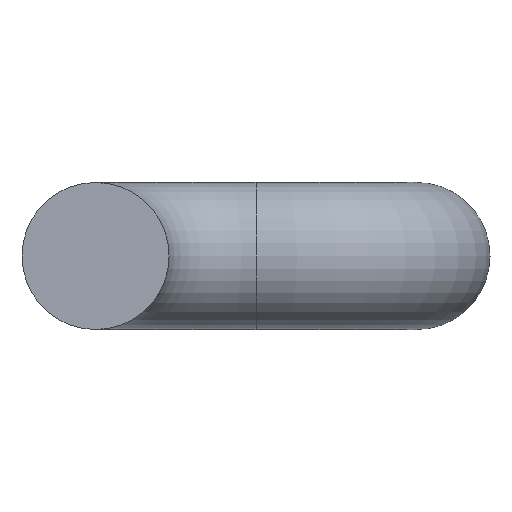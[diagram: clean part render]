
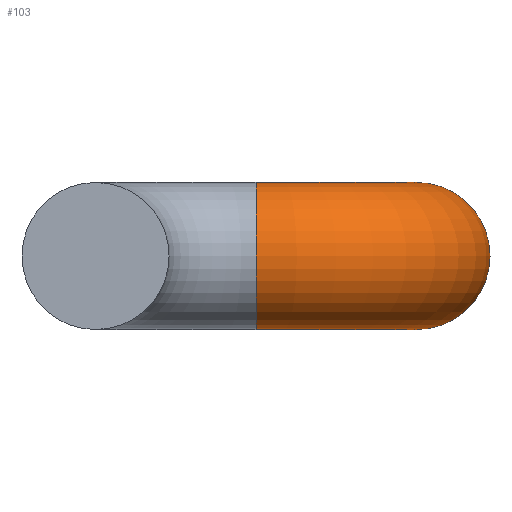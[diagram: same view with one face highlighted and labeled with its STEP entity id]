
A CAD part, front view. The second image highlights one B-rep face of the part: STEP entity #103.
In plain terms, the highlighted toroidal (fillet/blend) face has major radius 12 mm and minor radius 5.5 mm.
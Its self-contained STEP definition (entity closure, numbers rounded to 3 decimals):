
#24 = VERTEX_POINT('',#25);
#25 = CARTESIAN_POINT('',(36.5,-16.7,457.5));
#32 = CYLINDRICAL_SURFACE('',#33,5.5);
#33 = AXIS2_PLACEMENT_3D('',#34,#35,#36);
#34 = CARTESIAN_POINT('',(31.,-13.7,457.5));
#35 = DIRECTION('',(0.,-1.,0.));
#36 = DIRECTION('',(1.,0.,0.));
#50 = EDGE_CURVE('',#24,#24,#51,.T.);
#51 = SURFACE_CURVE('',#52,(#57,#64),.PCURVE_S1.);
#52 = CIRCLE('',#53,5.5);
#53 = AXIS2_PLACEMENT_3D('',#54,#55,#56);
#54 = CARTESIAN_POINT('',(31.,-16.7,457.5));
#55 = DIRECTION('',(0.,-1.,0.));
#56 = DIRECTION('',(1.,0.,0.));
#57 = PCURVE('',#32,#58);
#58 = DEFINITIONAL_REPRESENTATION('',(#59),#63);
#59 = LINE('',#60,#61);
#60 = CARTESIAN_POINT('',(0.,3.));
#61 = VECTOR('',#62,1.);
#62 = DIRECTION('',(1.,0.));
#63 = ( GEOMETRIC_REPRESENTATION_CONTEXT(2) 
PARAMETRIC_REPRESENTATION_CONTEXT() REPRESENTATION_CONTEXT('2D SPACE',''
  ) );
#64 = PCURVE('',#65,#70);
#65 = TOROIDAL_SURFACE('',#66,12.,5.5);
#66 = AXIS2_PLACEMENT_3D('',#67,#68,#69);
#67 = CARTESIAN_POINT('',(19.,-16.7,457.5));
#68 = DIRECTION('',(0.,-0.,-1.));
#69 = DIRECTION('',(1.,0.,0.));
#70 = DEFINITIONAL_REPRESENTATION('',(#71),#74);
#71 = B_SPLINE_CURVE_WITH_KNOTS('',1,(#72,#73),.UNSPECIFIED.,.F.,.F.,(2,
    2),(0.,6.283),.PIECEWISE_BEZIER_KNOTS.);
#72 = CARTESIAN_POINT('',(0.,6.283));
#73 = CARTESIAN_POINT('',(0.,0.));
#74 = ( GEOMETRIC_REPRESENTATION_CONTEXT(2) 
PARAMETRIC_REPRESENTATION_CONTEXT() REPRESENTATION_CONTEXT('2D SPACE',''
  ) );
#103 = ADVANCED_FACE('',(#104),#65,.T.);
#104 = FACE_BOUND('',#105,.T.);
#105 = EDGE_LOOP('',(#106,#129,#155,#156));
#106 = ORIENTED_EDGE('',*,*,#107,.T.);
#107 = EDGE_CURVE('',#24,#108,#110,.T.);
#108 = VERTEX_POINT('',#109);
#109 = CARTESIAN_POINT('',(19.,-34.2,457.5));
#110 = SEAM_CURVE('',#111,(#116,#122),.PCURVE_S1.);
#111 = CIRCLE('',#112,17.5);
#112 = AXIS2_PLACEMENT_3D('',#113,#114,#115);
#113 = CARTESIAN_POINT('',(19.,-16.7,457.5));
#114 = DIRECTION('',(0.,-0.,-1.));
#115 = DIRECTION('',(1.,0.,0.));
#116 = PCURVE('',#65,#117);
#117 = DEFINITIONAL_REPRESENTATION('',(#118),#121);
#118 = B_SPLINE_CURVE_WITH_KNOTS('',1,(#119,#120),.UNSPECIFIED.,.F.,.F.,
  (2,2),(0.,1.571),.PIECEWISE_BEZIER_KNOTS.);
#119 = CARTESIAN_POINT('',(0.,0.));
#120 = CARTESIAN_POINT('',(1.571,0.));
#121 = ( GEOMETRIC_REPRESENTATION_CONTEXT(2) 
PARAMETRIC_REPRESENTATION_CONTEXT() REPRESENTATION_CONTEXT('2D SPACE',''
  ) );
#122 = PCURVE('',#65,#123);
#123 = DEFINITIONAL_REPRESENTATION('',(#124),#128);
#124 = LINE('',#125,#126);
#125 = CARTESIAN_POINT('',(0.,6.283));
#126 = VECTOR('',#127,1.);
#127 = DIRECTION('',(1.,0.));
#128 = ( GEOMETRIC_REPRESENTATION_CONTEXT(2) 
PARAMETRIC_REPRESENTATION_CONTEXT() REPRESENTATION_CONTEXT('2D SPACE',''
  ) );
#129 = ORIENTED_EDGE('',*,*,#130,.T.);
#130 = EDGE_CURVE('',#108,#108,#131,.T.);
#131 = SURFACE_CURVE('',#132,(#137,#144),.PCURVE_S1.);
#132 = CIRCLE('',#133,5.5);
#133 = AXIS2_PLACEMENT_3D('',#134,#135,#136);
#134 = CARTESIAN_POINT('',(19.,-28.7,457.5));
#135 = DIRECTION('',(1.,0.,0.));
#136 = DIRECTION('',(0.,-1.,0.));
#137 = PCURVE('',#65,#138);
#138 = DEFINITIONAL_REPRESENTATION('',(#139),#143);
#139 = LINE('',#140,#141);
#140 = CARTESIAN_POINT('',(1.571,0.));
#141 = VECTOR('',#142,1.);
#142 = DIRECTION('',(0.,1.));
#143 = ( GEOMETRIC_REPRESENTATION_CONTEXT(2) 
PARAMETRIC_REPRESENTATION_CONTEXT() REPRESENTATION_CONTEXT('2D SPACE',''
  ) );
#144 = PCURVE('',#145,#150);
#145 = TOROIDAL_SURFACE('',#146,12.,5.5);
#146 = AXIS2_PLACEMENT_3D('',#147,#148,#149);
#147 = CARTESIAN_POINT('',(19.,-40.7,457.5));
#148 = DIRECTION('',(0.,0.,1.));
#149 = DIRECTION('',(0.,1.,0.));
#150 = DEFINITIONAL_REPRESENTATION('',(#151),#154);
#151 = B_SPLINE_CURVE_WITH_KNOTS('',1,(#152,#153),.UNSPECIFIED.,.F.,.F.,
  (2,2),(0.,6.283),.PIECEWISE_BEZIER_KNOTS.);
#152 = CARTESIAN_POINT('',(0.,3.142));
#153 = CARTESIAN_POINT('',(0.,9.425));
#154 = ( GEOMETRIC_REPRESENTATION_CONTEXT(2) 
PARAMETRIC_REPRESENTATION_CONTEXT() REPRESENTATION_CONTEXT('2D SPACE',''
  ) );
#155 = ORIENTED_EDGE('',*,*,#107,.F.);
#156 = ORIENTED_EDGE('',*,*,#50,.T.);
